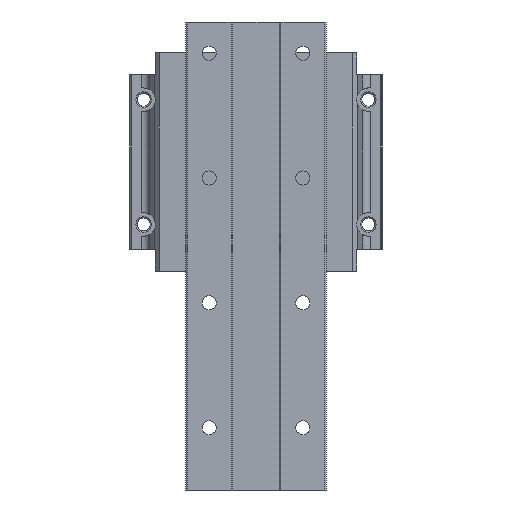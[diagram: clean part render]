
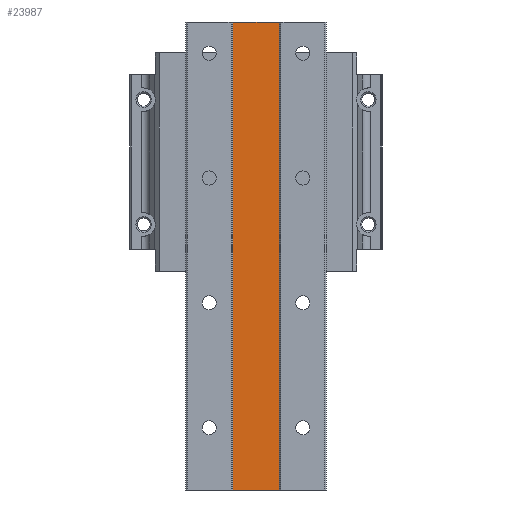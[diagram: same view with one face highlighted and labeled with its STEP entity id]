
A CAD part, front view. The second image highlights one B-rep face of the part: STEP entity #23987.
In plain terms, the highlighted planar face has unit normal (0, -1, 0).
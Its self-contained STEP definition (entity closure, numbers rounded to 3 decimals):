
#23261=CARTESIAN_POINT('',(-15.,1.,0.0));
#23262=VERTEX_POINT('',#23261);
#23269=CARTESIAN_POINT('',(15.0,1.,0.0));
#23270=VERTEX_POINT('',#23269);
#23271=CARTESIAN_POINT('',(-15.,1.,0.0));
#23272=DIRECTION('',(1.0,0.0,0.0));
#23273=VECTOR('',#23272,30.);
#23274=LINE('',#23271,#23273);
#23275=EDGE_CURVE('',#23262,#23270,#23274,.T.);
#23460=CARTESIAN_POINT('',(15.,1.,-300.));
#23461=VERTEX_POINT('',#23460);
#23468=CARTESIAN_POINT('',(-15.0,1.,-300.));
#23469=VERTEX_POINT('',#23468);
#23470=CARTESIAN_POINT('',(-15.0,1.,-300.));
#23471=DIRECTION('',(1.0,0.0,0.0));
#23472=VECTOR('',#23471,30.);
#23473=LINE('',#23470,#23472);
#23474=EDGE_CURVE('',#23469,#23461,#23473,.T.);
#23960=CARTESIAN_POINT('',(-15.,1.,0.0));
#23961=DIRECTION('',(0.0,0.0,-1.0));
#23962=VECTOR('',#23961,300.);
#23963=LINE('',#23960,#23962);
#23964=EDGE_CURVE('',#23262,#23469,#23963,.T.);
#23971=CARTESIAN_POINT('',(0.0,1.,0.0));
#23972=DIRECTION('',(0.0,-1.0,0.0));
#23973=DIRECTION('',(0.0,0.0,-1.0));
#23974=AXIS2_PLACEMENT_3D('',#23971,#23972,#23973);
#23975=PLANE('',#23974);
#23976=ORIENTED_EDGE('',*,*,#23474,.T.);
#23977=CARTESIAN_POINT('',(15.0,1.,0.0));
#23978=DIRECTION('',(0.0,0.0,-1.0));
#23979=VECTOR('',#23978,300.);
#23980=LINE('',#23977,#23979);
#23981=EDGE_CURVE('',#23270,#23461,#23980,.T.);
#23982=ORIENTED_EDGE('',*,*,#23981,.F.);
#23983=ORIENTED_EDGE('',*,*,#23275,.F.);
#23984=ORIENTED_EDGE('',*,*,#23964,.T.);
#23985=EDGE_LOOP('',(#23976,#23982,#23983,#23984));
#23986=FACE_OUTER_BOUND('',#23985,.T.);
#23987=ADVANCED_FACE('',(#23986),#23975,.T.);
